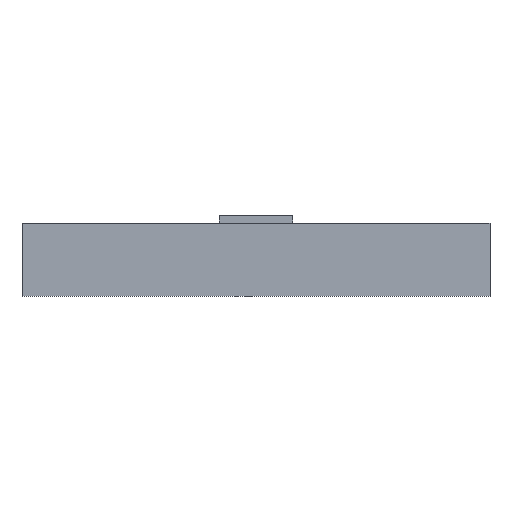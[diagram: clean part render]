
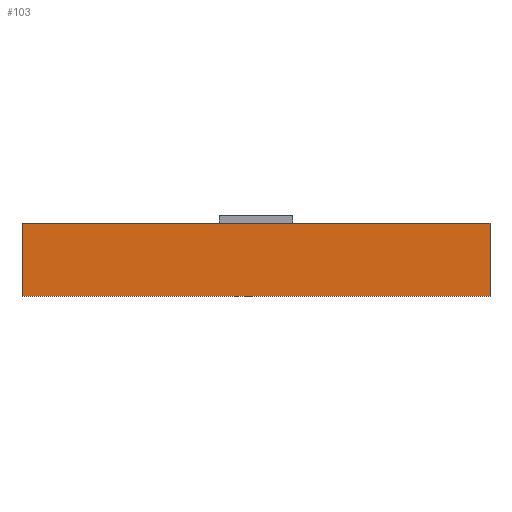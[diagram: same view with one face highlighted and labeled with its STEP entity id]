
A CAD part, left-side view. The second image highlights one B-rep face of the part: STEP entity #103.
In plain terms, the highlighted planar face has unit normal (-1, 0, 0).
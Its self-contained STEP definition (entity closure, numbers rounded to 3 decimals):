
#103=ADVANCED_FACE('',(#255),#257,.T.);
#255=FACE_BOUND('',#256,.T.);
#256=EDGE_LOOP('',(#374,#375,#376,#377,#378,#379));
#257=PLANE('',#258);
#258=AXIS2_PLACEMENT_3D('',#259,#260,#261);
#259=CARTESIAN_POINT('',(-3.2,3.2,0.));
#260=DIRECTION('',(-1.,0.,0.));
#261=DIRECTION('',(0.,-1.,0.));
#374=ORIENTED_EDGE('',*,*,#455,.F.);
#375=ORIENTED_EDGE('',*,*,#438,.F.);
#376=ORIENTED_EDGE('',*,*,#458,.F.);
#377=ORIENTED_EDGE('',*,*,#459,.T.);
#378=ORIENTED_EDGE('',*,*,#460,.T.);
#379=ORIENTED_EDGE('',*,*,#442,.F.);
#438=EDGE_CURVE('',#485,#487,#488,.T.);
#442=EDGE_CURVE('',#493,#495,#496,.T.);
#455=EDGE_CURVE('',#487,#493,#517,.F.);
#458=EDGE_CURVE('',#520,#485,#521,.T.);
#459=EDGE_CURVE('',#520,#522,#523,.T.);
#460=EDGE_CURVE('',#522,#495,#524,.T.);
#485=VERTEX_POINT('',#563);
#487=VERTEX_POINT('',#567);
#488=LINE('',#568,#569);
#493=VERTEX_POINT('',#579);
#495=VERTEX_POINT('',#583);
#496=LINE('',#584,#585);
#517=LINE('',#631,#632);
#520=VERTEX_POINT('',#640);
#521=LINE('',#641,#642);
#522=VERTEX_POINT('',#644);
#523=LINE('',#645,#646);
#524=LINE('',#648,#649);
#563=CARTESIAN_POINT('',(-3.2,3.2,1.));
#567=CARTESIAN_POINT('',(-3.2,0.5,1.));
#568=CARTESIAN_POINT('',(-3.2,3.2,1.));
#569=VECTOR('',#570,1.);
#570=DIRECTION('',(0.,-1.,0.));
#579=CARTESIAN_POINT('',(-3.2,-0.5,1.));
#583=CARTESIAN_POINT('',(-3.2,-3.2,1.));
#584=CARTESIAN_POINT('',(-3.2,-0.5,1.));
#585=VECTOR('',#586,1.);
#586=DIRECTION('',(0.,-1.,0.));
#631=CARTESIAN_POINT('',(-3.2,-0.5,1.));
#632=VECTOR('',#633,1.);
#633=DIRECTION('',(0.,1.,0.));
#640=CARTESIAN_POINT('',(-3.2,3.2,0.));
#641=CARTESIAN_POINT('',(-3.2,3.2,0.));
#642=VECTOR('',#643,1.);
#643=DIRECTION('',(0.,0.,1.));
#644=CARTESIAN_POINT('',(-3.2,-3.2,0.));
#645=CARTESIAN_POINT('',(-3.2,3.2,0.));
#646=VECTOR('',#647,1.);
#647=DIRECTION('',(0.,-1.,0.));
#648=CARTESIAN_POINT('',(-3.2,-3.2,0.));
#649=VECTOR('',#650,1.);
#650=DIRECTION('',(0.,0.,1.));
